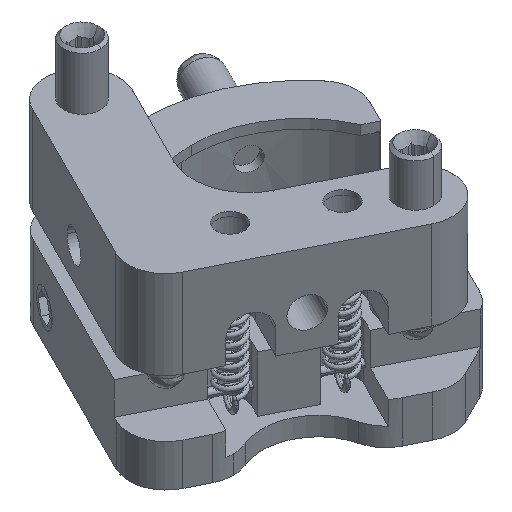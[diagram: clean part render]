
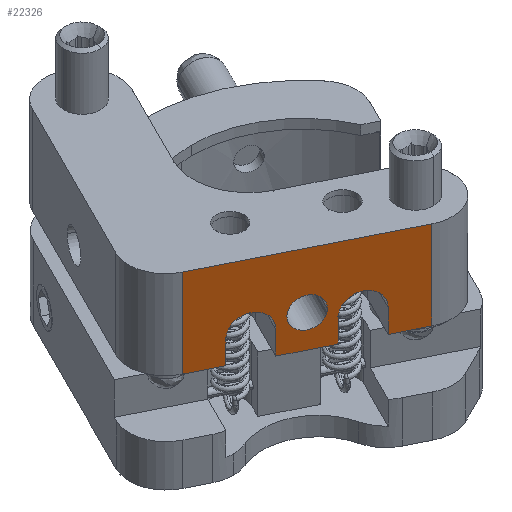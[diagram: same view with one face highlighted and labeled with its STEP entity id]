
A CAD part, isometric view. The second image highlights one B-rep face of the part: STEP entity #22326.
In plain terms, the highlighted planar face has unit normal (-0.447, -0.895, 0).
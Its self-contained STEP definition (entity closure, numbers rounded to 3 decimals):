
#1 = VERTEX_POINT ( 'NONE', #5956 ) ;
#2 = EDGE_CURVE ( 'NONE', #9987, #1, #6022, .T. ) ;
#87 = EDGE_CURVE ( 'NONE', #89, #90, #6164, .T. ) ;
#89 = VERTEX_POINT ( 'NONE', #6159 ) ;
#90 = VERTEX_POINT ( 'NONE', #6158 ) ;
#135 = VERTEX_POINT ( 'NONE', #6260 ) ;
#139 = EDGE_CURVE ( 'NONE', #140, #135, #6252, .T. ) ;
#140 = VERTEX_POINT ( 'NONE', #6244 ) ;
#216 = EDGE_CURVE ( 'NONE', #217, #5610, #6396, .T. ) ;
#217 = VERTEX_POINT ( 'NONE', #6388 ) ;
#373 = ORIENTED_EDGE ( 'NONE', *, *, #374, .T. ) ;
#374 = EDGE_CURVE ( 'NONE', #5638, #22348, #8553, .T. ) ;
#377 = ORIENTED_EDGE ( 'NONE', *, *, #379, .T. ) ;
#379 = EDGE_CURVE ( 'NONE', #22348, #140, #8547, .T. ) ;
#381 = ORIENTED_EDGE ( 'NONE', *, *, #139, .T. ) ;
#384 = ORIENTED_EDGE ( 'NONE', *, *, #386, .T. ) ;
#386 = EDGE_CURVE ( 'NONE', #135, #387, #8587, .T. ) ;
#387 = VERTEX_POINT ( 'NONE', #8583 ) ;
#390 = ORIENTED_EDGE ( 'NONE', *, *, #391, .T. ) ;
#391 = EDGE_CURVE ( 'NONE', #387, #401, #8578, .T. ) ;
#392 = EDGE_LOOP ( 'NONE', ( #395, #437 ) ) ;
#395 = ORIENTED_EDGE ( 'NONE', *, *, #397, .T. ) ;
#397 = EDGE_CURVE ( 'NONE', #5102, #5143, #8573, .T. ) ;
#399 = EDGE_CURVE ( 'NONE', #401, #89, #8562, .T. ) ;
#401 = VERTEX_POINT ( 'NONE', #8615 ) ;
#404 = ORIENTED_EDGE ( 'NONE', *, *, #87, .T. ) ;
#437 = ORIENTED_EDGE ( 'NONE', *, *, #5142, .T. ) ;
#5102 = VERTEX_POINT ( 'NONE', #17962 ) ;
#5142 = EDGE_CURVE ( 'NONE', #5143, #5102, #18089, .T. ) ;
#5143 = VERTEX_POINT ( 'NONE', #18084 ) ;
#5610 = VERTEX_POINT ( 'NONE', #19237 ) ;
#5638 = VERTEX_POINT ( 'NONE', #19320 ) ;
#5640 = EDGE_CURVE ( 'NONE', #5610, #5638, #19319, .T. ) ;
#5956 = CARTESIAN_POINT ( 'NONE',  ( 22.177, -6.947, 2.5 ) ) ;
#5974 = ORIENTED_EDGE ( 'NONE', *, *, #399, .T. ) ;
#6018 = DIRECTION ( 'NONE',  ( 0.895, -0.447, 0. ) ) ;
#6019 = DIRECTION ( 'NONE',  ( 0.447, 0.895, 0. ) ) ;
#6020 = CARTESIAN_POINT ( 'NONE',  ( 20.388, -6.054, 2.5 ) ) ;
#6021 = AXIS2_PLACEMENT_3D ( 'NONE', #6020, #6019, #6018 ) ;
#6022 = CIRCLE ( 'NONE', #6021, 2. ) ;
#6158 = CARTESIAN_POINT ( 'NONE',  ( 18.598, -5.161, 0. ) ) ;
#6159 = CARTESIAN_POINT ( 'NONE',  ( 14.124, -2.928, 0. ) ) ;
#6161 = DIRECTION ( 'NONE',  ( 0.895, -0.447, 0. ) ) ;
#6162 = VECTOR ( 'NONE', #6161, 1000. ) ;
#6163 = CARTESIAN_POINT ( 'NONE',  ( 14.124, -2.928, 0. ) ) ;
#6164 = LINE ( 'NONE', #6163, #6162 ) ;
#6244 = CARTESIAN_POINT ( 'NONE',  ( 7.413, 0.421, 0. ) ) ;
#6245 = DIRECTION ( 'NONE',  ( 0.895, -0.447, 0. ) ) ;
#6246 = VECTOR ( 'NONE', #6245, 1000. ) ;
#6247 = CARTESIAN_POINT ( 'NONE',  ( 7.413, 0.421, 0. ) ) ;
#6252 = LINE ( 'NONE', #6247, #6246 ) ;
#6260 = CARTESIAN_POINT ( 'NONE',  ( 10.545, -1.142, 0. ) ) ;
#6388 = CARTESIAN_POINT ( 'NONE',  ( 22.177, -6.947, 0. ) ) ;
#6389 = DIRECTION ( 'NONE',  ( 0.895, -0.447, 0. ) ) ;
#6390 = VECTOR ( 'NONE', #6389, 1000. ) ;
#6391 = CARTESIAN_POINT ( 'NONE',  ( 22.177, -6.947, 0. ) ) ;
#6396 = LINE ( 'NONE', #6391, #6390 ) ;
#8540 = DIRECTION ( 'NONE',  ( 0., 0., -1. ) ) ;
#8541 = VECTOR ( 'NONE', #8540, 1000. ) ;
#8542 = CARTESIAN_POINT ( 'NONE',  ( 7.413, 0.421, 0. ) ) ;
#8547 = LINE ( 'NONE', #8542, #8541 ) ;
#8550 = DIRECTION ( 'NONE',  ( -0.895, 0.447, 0. ) ) ;
#8551 = VECTOR ( 'NONE', #8550, 1000. ) ;
#8552 = CARTESIAN_POINT ( 'NONE',  ( 28.888, -10.295, 9.5 ) ) ;
#8553 = LINE ( 'NONE', #8552, #8551 ) ;
#8559 = DIRECTION ( 'NONE',  ( 0., 0., -1. ) ) ;
#8560 = VECTOR ( 'NONE', #8559, 1000. ) ;
#8561 = CARTESIAN_POINT ( 'NONE',  ( 14.124, -2.928, 0. ) ) ;
#8562 = LINE ( 'NONE', #8561, #8560 ) ;
#8563 = DIRECTION ( 'NONE',  ( -0.895, 0.447, 0. ) ) ;
#8564 = DIRECTION ( 'NONE',  ( 0.447, 0.895, 0. ) ) ;
#8565 = CARTESIAN_POINT ( 'NONE',  ( 16.361, -4.044, 3.5 ) ) ;
#8566 = AXIS2_PLACEMENT_3D ( 'NONE', #8565, #8564, #8563 ) ;
#8573 = CIRCLE ( 'NONE', #8566, 1.621 ) ;
#8574 = DIRECTION ( 'NONE',  ( 0.895, -0.447, 0. ) ) ;
#8575 = DIRECTION ( 'NONE',  ( 0.447, 0.895, 0. ) ) ;
#8576 = CARTESIAN_POINT ( 'NONE',  ( 12.335, -2.035, 2.5 ) ) ;
#8577 = AXIS2_PLACEMENT_3D ( 'NONE', #8576, #8575, #8574 ) ;
#8578 = CIRCLE ( 'NONE', #8577, 2. ) ;
#8583 = CARTESIAN_POINT ( 'NONE',  ( 10.545, -1.142, 2.5 ) ) ;
#8584 = DIRECTION ( 'NONE',  ( 0., 0., 1. ) ) ;
#8585 = VECTOR ( 'NONE', #8584, 1000. ) ;
#8586 = CARTESIAN_POINT ( 'NONE',  ( 10.545, -1.142, 0. ) ) ;
#8587 = LINE ( 'NONE', #8586, #8585 ) ;
#8615 = CARTESIAN_POINT ( 'NONE',  ( 14.124, -2.928, 2.5 ) ) ;
#9346 = ORIENTED_EDGE ( 'NONE', *, *, #2, .T. ) ;
#9987 = VERTEX_POINT ( 'NONE', #22112 ) ;
#10214 = EDGE_CURVE ( 'NONE', #90, #9987, #22107, .T. ) ;
#13907 = EDGE_CURVE ( 'NONE', #1, #217, #22103, .T. ) ;
#13908 = ORIENTED_EDGE ( 'NONE', *, *, #10214, .T. ) ;
#17962 = CARTESIAN_POINT ( 'NONE',  ( 14.911, -3.32, 3.5 ) ) ;
#18084 = CARTESIAN_POINT ( 'NONE',  ( 17.811, -4.768, 3.5 ) ) ;
#18085 = DIRECTION ( 'NONE',  ( -0.895, 0.447, 0. ) ) ;
#18086 = DIRECTION ( 'NONE',  ( 0.447, 0.895, 0. ) ) ;
#18087 = CARTESIAN_POINT ( 'NONE',  ( 16.361, -4.044, 3.5 ) ) ;
#18088 = AXIS2_PLACEMENT_3D ( 'NONE', #18087, #18086, #18085 ) ;
#18089 = CIRCLE ( 'NONE', #18088, 1.621 ) ;
#19237 = CARTESIAN_POINT ( 'NONE',  ( 25.309, -8.509, 0. ) ) ;
#19316 = DIRECTION ( 'NONE',  ( 0., 0., 1. ) ) ;
#19317 = VECTOR ( 'NONE', #19316, 1000. ) ;
#19318 = CARTESIAN_POINT ( 'NONE',  ( 25.309, -8.509, 0. ) ) ;
#19319 = LINE ( 'NONE', #19318, #19317 ) ;
#19320 = CARTESIAN_POINT ( 'NONE',  ( 25.309, -8.509, 9.5 ) ) ;
#22100 = DIRECTION ( 'NONE',  ( 0., 0., -1. ) ) ;
#22101 = VECTOR ( 'NONE', #22100, 1000. ) ;
#22102 = CARTESIAN_POINT ( 'NONE',  ( 22.177, -6.947, 0. ) ) ;
#22103 = LINE ( 'NONE', #22102, #22101 ) ;
#22104 = DIRECTION ( 'NONE',  ( 0., 0., 1. ) ) ;
#22105 = VECTOR ( 'NONE', #22104, 1000. ) ;
#22106 = CARTESIAN_POINT ( 'NONE',  ( 18.598, -5.161, 0. ) ) ;
#22107 = LINE ( 'NONE', #22106, #22105 ) ;
#22112 = CARTESIAN_POINT ( 'NONE',  ( 18.598, -5.161, 2.5 ) ) ;
#22177 = DIRECTION ( 'NONE',  ( 0.895, -0.447, 0. ) ) ;
#22178 = DIRECTION ( 'NONE',  ( -0.447, -0.895, 0. ) ) ;
#22179 = CARTESIAN_POINT ( 'NONE',  ( 28.888, -10.295, 0. ) ) ;
#22180 = AXIS2_PLACEMENT_3D ( 'NONE', #22179, #22178, #22177 ) ;
#22181 = PLANE ( 'NONE',  #22180 ) ;
#22182 = FACE_BOUND ( 'NONE', #392, .T. ) ;
#22183 = FACE_OUTER_BOUND ( 'NONE', #22321, .T. ) ;
#22209 = CARTESIAN_POINT ( 'NONE',  ( 7.413, 0.421, 9.5 ) ) ;
#22321 = EDGE_LOOP ( 'NONE', ( #5974, #404, #13908, #9346, #22357, #22353, #22344, #373, #377, #381, #384, #390 ) ) ;
#22326 = ADVANCED_FACE ( 'NONE', ( #22183, #22182 ), #22181, .T. ) ;
#22344 = ORIENTED_EDGE ( 'NONE', *, *, #5640, .T. ) ;
#22348 = VERTEX_POINT ( 'NONE', #22209 ) ;
#22353 = ORIENTED_EDGE ( 'NONE', *, *, #216, .T. ) ;
#22357 = ORIENTED_EDGE ( 'NONE', *, *, #13907, .T. ) ;
